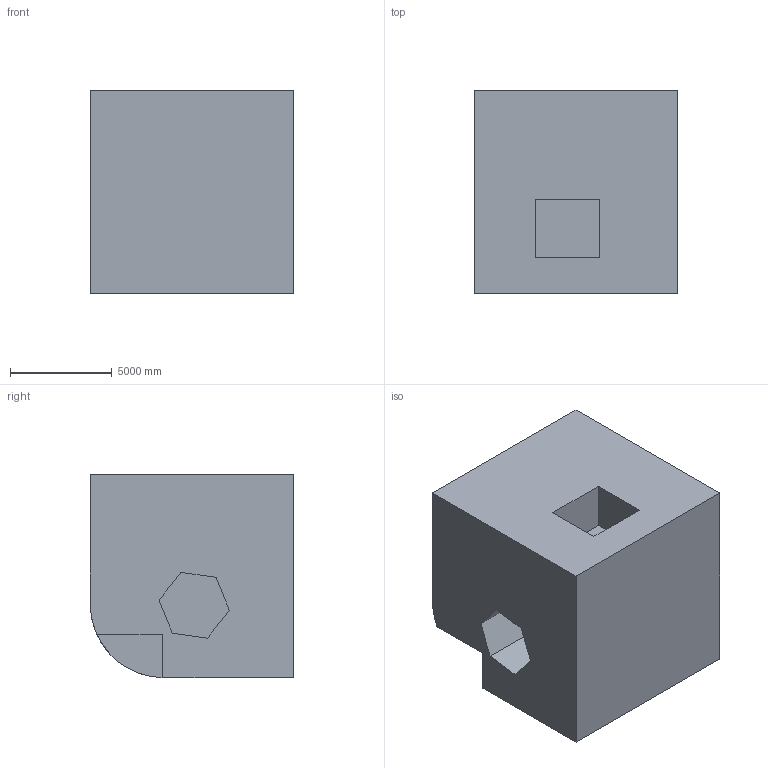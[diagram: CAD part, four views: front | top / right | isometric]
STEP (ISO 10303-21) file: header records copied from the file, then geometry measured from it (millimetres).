
FILE_DESCRIPTION (( 'STEP AP203' ), '1' );
FILE_NAME ('1324.STEP', '2022-08-18T13:46:34', ( 'user' ), ( '' ), 'SwSTEP 2.0', 'SolidWorks 2021', '' );
FILE_SCHEMA (( 'CONFIG_CONTROL_DESIGN' ));
Length unit declared in the file: centimetre
Products named in the file (1): 1324
Bounding box: 10000 x 10000 x 10000 mm (x, y, z)
Volume: 891614987623.9 mm3; surface area: 667485078.3 mm2
Topology: 1 solids, 1 shells, 22 faces, 54 edges, 36 vertices
Faces by surface type: plane 21, cylinder 1
Entity records: 719 total; most frequent: CARTESIAN_POINT 113, ORIENTED_EDGE 108, DIRECTION 104, EDGE_CURVE 54, VECTOR 50, LINE 50, VERTEX_POINT 36, AXIS2_PLACEMENT_3D 27
